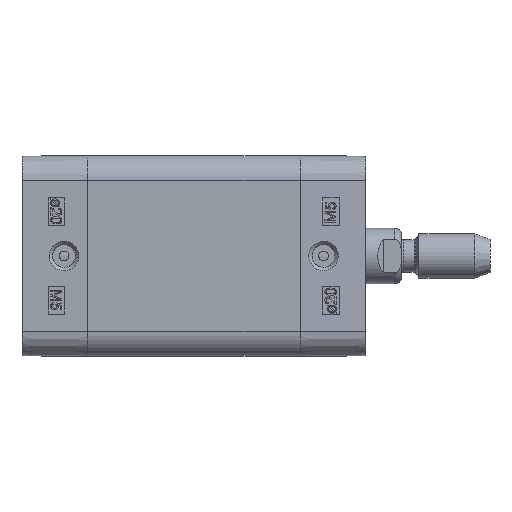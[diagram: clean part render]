
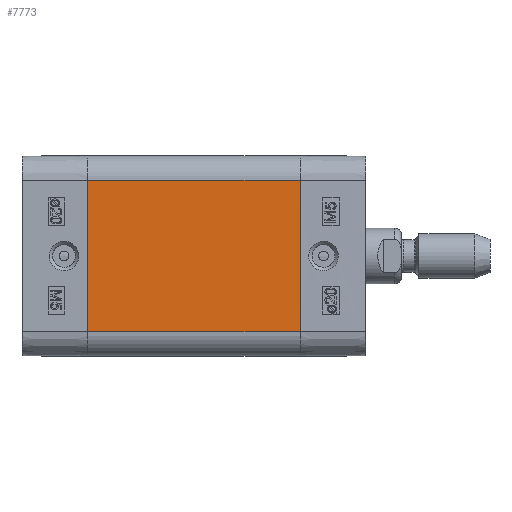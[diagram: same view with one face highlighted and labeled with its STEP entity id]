
A CAD part, left-side view. The second image highlights one B-rep face of the part: STEP entity #7773.
In plain terms, the highlighted planar face has unit normal (-1, 0, 0).
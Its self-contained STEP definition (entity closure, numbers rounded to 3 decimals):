
#6294=CARTESIAN_POINT('',(-18.15,-38.5,13.65));
#6295=VERTEX_POINT('',#6294);
#6302=CARTESIAN_POINT('',(-18.15,-38.5,-13.65));
#6303=VERTEX_POINT('',#6302);
#6304=CARTESIAN_POINT('',(-18.15,-38.5,-13.65));
#6305=DIRECTION('',(0.0,0.0,1.0));
#6306=VECTOR('',#6305,27.3);
#6307=LINE('',#6304,#6306);
#6308=EDGE_CURVE('',#6303,#6295,#6307,.T.);
#7731=CARTESIAN_POINT('',(-18.15,0.0,-13.65));
#7732=VERTEX_POINT('',#7731);
#7733=CARTESIAN_POINT('',(-18.15,0.0,-13.65));
#7734=DIRECTION('',(0.0,-1.0,0.0));
#7735=VECTOR('',#7734,38.5);
#7736=LINE('',#7733,#7735);
#7737=EDGE_CURVE('',#7732,#6303,#7736,.T.);
#7750=CARTESIAN_POINT('',(-18.15,0.0,-13.65));
#7751=DIRECTION('',(-1.0,0.0,0.0));
#7752=DIRECTION('',(0.0,0.0,1.0));
#7753=AXIS2_PLACEMENT_3D('',#7750,#7751,#7752);
#7754=PLANE('',#7753);
#7755=ORIENTED_EDGE('',*,*,#6308,.T.);
#7756=CARTESIAN_POINT('',(-18.15,0.0,13.65));
#7757=VERTEX_POINT('',#7756);
#7758=CARTESIAN_POINT('',(-18.15,0.0,13.65));
#7759=DIRECTION('',(0.0,-1.0,0.0));
#7760=VECTOR('',#7759,38.5);
#7761=LINE('',#7758,#7760);
#7762=EDGE_CURVE('',#7757,#6295,#7761,.T.);
#7763=ORIENTED_EDGE('',*,*,#7762,.F.);
#7764=CARTESIAN_POINT('',(-18.15,0.0,-13.65));
#7765=DIRECTION('',(0.0,0.0,1.0));
#7766=VECTOR('',#7765,27.3);
#7767=LINE('',#7764,#7766);
#7768=EDGE_CURVE('',#7732,#7757,#7767,.T.);
#7769=ORIENTED_EDGE('',*,*,#7768,.F.);
#7770=ORIENTED_EDGE('',*,*,#7737,.T.);
#7771=EDGE_LOOP('',(#7755,#7763,#7769,#7770));
#7772=FACE_OUTER_BOUND('',#7771,.T.);
#7773=ADVANCED_FACE('',(#7772),#7754,.T.);
